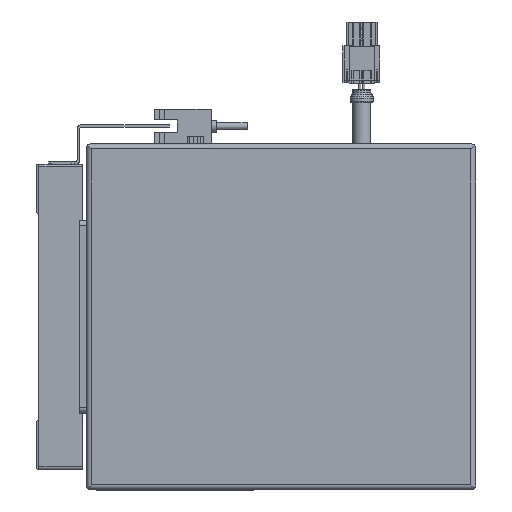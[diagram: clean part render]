
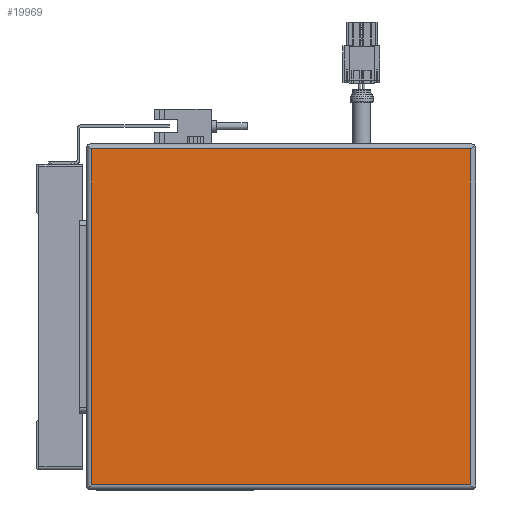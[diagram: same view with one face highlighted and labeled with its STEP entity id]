
A CAD part, left-side view. The second image highlights one B-rep face of the part: STEP entity #19969.
In plain terms, the highlighted planar face has unit normal (-1, 0, 0).
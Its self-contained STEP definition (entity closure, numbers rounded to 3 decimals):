
#4747=ORIENTED_EDGE('',*,*,#8461,.T.);
#4748=ORIENTED_EDGE('',*,*,#8462,.F.);
#4749=ORIENTED_EDGE('',*,*,#8463,.F.);
#4750=ORIENTED_EDGE('',*,*,#8464,.T.);
#8461=EDGE_CURVE('',#10662,#10663,#12779,.T.);
#8462=EDGE_CURVE('',#10664,#10663,#12780,.T.);
#8463=EDGE_CURVE('',#10665,#10664,#12781,.T.);
#8464=EDGE_CURVE('',#10665,#10662,#12782,.T.);
#10662=VERTEX_POINT('',#31865);
#10663=VERTEX_POINT('',#31866);
#10664=VERTEX_POINT('',#31868);
#10665=VERTEX_POINT('',#31870);
#12779=LINE('',#31864,#14884);
#12780=LINE('',#31867,#14885);
#12781=LINE('',#31869,#14886);
#12782=LINE('',#31871,#14887);
#14884=VECTOR('',#25958,1000.);
#14885=VECTOR('',#25959,1000.);
#14886=VECTOR('',#25960,1000.);
#14887=VECTOR('',#25961,1000.);
#16460=EDGE_LOOP('',(#4747,#4748,#4749,#4750));
#17905=FACE_BOUND('',#16460,.T.);
#18981=PLANE('',#21584);
#19969=ADVANCED_FACE('',(#17905),#18981,.F.);
#21584=AXIS2_PLACEMENT_3D('',#31863,#25956,#25957);
#25956=DIRECTION('',(1.,0.,0.));
#25957=DIRECTION('',(0.,0.,-1.));
#25958=DIRECTION('',(0.,-1.,0.));
#25959=DIRECTION('',(0.,0.,-1.));
#25960=DIRECTION('',(0.,-1.,0.));
#25961=DIRECTION('',(0.,0.,-1.));
#31863=CARTESIAN_POINT('',(-52.,2.,65.5));
#31864=CARTESIAN_POINT('',(-52.,152.,-65.5));
#31865=CARTESIAN_POINT('',(-52.,150.,-65.5));
#31866=CARTESIAN_POINT('',(-52.,2.,-65.5));
#31867=CARTESIAN_POINT('',(-52.,2.,67.5));
#31868=CARTESIAN_POINT('',(-52.,2.,65.5));
#31869=CARTESIAN_POINT('',(-52.,152.,65.5));
#31870=CARTESIAN_POINT('',(-52.,150.,65.5));
#31871=CARTESIAN_POINT('',(-52.,150.,67.5));
